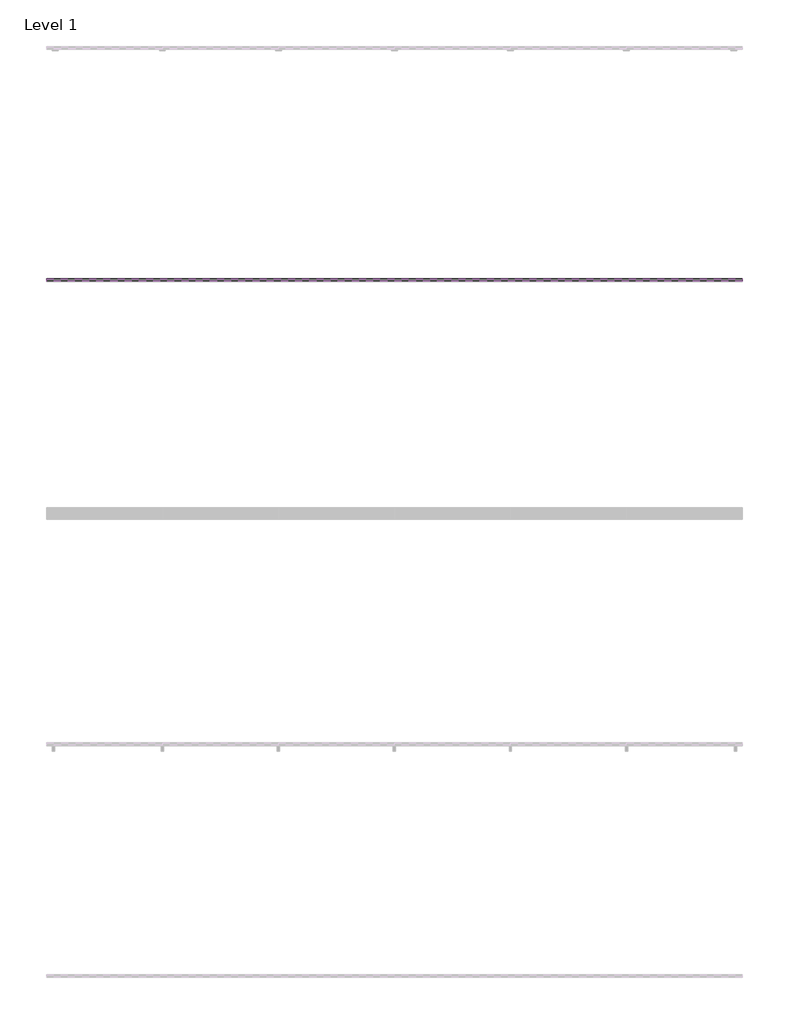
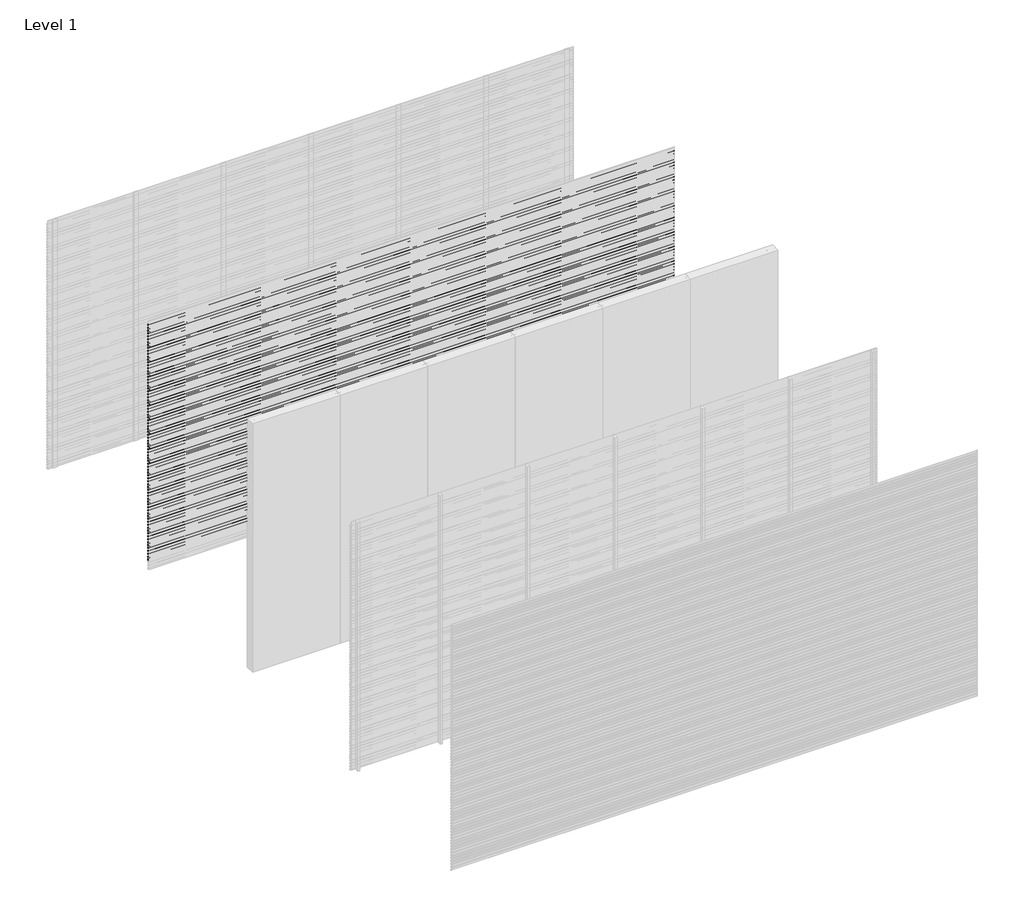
# One storey, part 20 of 25: 98 proxies.
"""IFC4 building model written with IfcOpenShell, lengths in millimetres."""

from ifc_helpers import new_model, si_unit, frame, origin, place, context, project, spatial, polyline, outline, extrude, element, save

model = new_model("IFC4")

# Units and contexts
model_context = context("Model", 3, world=origin())
ifc_project = project(units=[si_unit("LENGTHUNIT", "METRE", prefix="MILLI")], contexts=[model_context])

# Site, building, storey
site = spatial("IfcSite", under=ifc_project)
building = spatial("IfcBuilding", under=site)
storey = spatial("IfcBuildingStorey", under=building, Name="Level 1", Elevation=0.0)

# Proxies
placement = place(None, origin())
element("IfcBuildingElementProxy", 1, Name="Wall Sweeps", at=placement, inside=storey, context=model_context, shape_type="SweptSolid", body=[
    extrude(outline(polyline([(-1995.0, 2975.0), (-1995.0, 2963.942893), (-1976.0, 2948.0), (-1976.0, 2935.0), (-1997.0, 2952.6210923), (-1997.0, 2975.0), (-1995.0, 2975.0)])), frame((0.0, 0.0, 0.0), z_axis=(1.0, 0.0, 0.0), x_axis=(0.0, 1.0, 0.0)), (0.0, 0.0, 1.0), 6000.0),
])
element("IfcBuildingElementProxy", 2, Name="Wall Sweeps", at=placement, inside=storey, context=model_context, shape_type="SweptSolid", body=[
    extrude(outline(polyline([(-1995.0, 2940.0), (-1995.0, 2928.942893), (-1976.0, 2913.0), (-1976.0, 2900.0), (-1997.0, 2917.6210923), (-1997.0, 2940.0), (-1995.0, 2940.0)])), frame((0.0, 0.0, 0.0), z_axis=(1.0, 0.0, 0.0), x_axis=(0.0, 1.0, 0.0)), (0.0, 0.0, 1.0), 6000.0),
])
element("IfcBuildingElementProxy", 3, Name="Wall Sweeps", at=placement, inside=storey, context=model_context, shape_type="SweptSolid", body=[
    extrude(outline(polyline([(-1995.0, 2905.0), (-1995.0, 2893.942893), (-1976.0, 2878.0), (-1976.0, 2865.0), (-1997.0, 2882.6210923), (-1997.0, 2905.0), (-1995.0, 2905.0)])), frame((0.0, 0.0, 0.0), z_axis=(1.0, 0.0, 0.0), x_axis=(0.0, 1.0, 0.0)), (0.0, 0.0, 1.0), 6000.0),
])
element("IfcBuildingElementProxy", 4, Name="Wall Sweeps", at=placement, inside=storey, context=model_context, shape_type="SweptSolid", body=[
    extrude(outline(polyline([(-1995.0, 2870.0), (-1995.0, 2858.942893), (-1976.0, 2843.0), (-1976.0, 2830.0), (-1997.0, 2847.6210923), (-1997.0, 2870.0), (-1995.0, 2870.0)])), frame((0.0, 0.0, 0.0), z_axis=(1.0, 0.0, 0.0), x_axis=(0.0, 1.0, 0.0)), (0.0, 0.0, 1.0), 6000.0),
])
element("IfcBuildingElementProxy", 5, Name="Wall Sweeps", at=placement, inside=storey, context=model_context, shape_type="SweptSolid", body=[
    extrude(outline(polyline([(-1995.0, 2835.0), (-1995.0, 2823.942893), (-1976.0, 2808.0), (-1976.0, 2795.0), (-1997.0, 2812.6210923), (-1997.0, 2835.0), (-1995.0, 2835.0)])), frame((0.0, 0.0, 0.0), z_axis=(1.0, 0.0, 0.0), x_axis=(0.0, 1.0, 0.0)), (0.0, 0.0, 1.0), 6000.0),
])
element("IfcBuildingElementProxy", 6, Name="Wall Sweeps", at=placement, inside=storey, context=model_context, shape_type="SweptSolid", body=[
    extrude(outline(polyline([(-1995.0, 2800.0), (-1995.0, 2788.942893), (-1976.0, 2773.0), (-1976.0, 2760.0), (-1997.0, 2777.6210923), (-1997.0, 2800.0), (-1995.0, 2800.0)])), frame((0.0, 0.0, 0.0), z_axis=(1.0, 0.0, 0.0), x_axis=(0.0, 1.0, 0.0)), (0.0, 0.0, 1.0), 6000.0),
])
element("IfcBuildingElementProxy", 7, Name="Wall Sweeps", at=placement, inside=storey, context=model_context, shape_type="SweptSolid", body=[
    extrude(outline(polyline([(-1995.0, 2765.0), (-1995.0, 2753.942893), (-1976.0, 2738.0), (-1976.0, 2725.0), (-1997.0, 2742.6210923), (-1997.0, 2765.0), (-1995.0, 2765.0)])), frame((0.0, 0.0, 0.0), z_axis=(1.0, 0.0, 0.0), x_axis=(0.0, 1.0, 0.0)), (0.0, 0.0, 1.0), 6000.0),
])
element("IfcBuildingElementProxy", 8, Name="Wall Sweeps", at=placement, inside=storey, context=model_context, shape_type="SweptSolid", body=[
    extrude(outline(polyline([(-1995.0, 2730.0), (-1995.0, 2718.942893), (-1976.0, 2703.0), (-1976.0, 2690.0), (-1997.0, 2707.6210923), (-1997.0, 2730.0), (-1995.0, 2730.0)])), frame((0.0, 0.0, 0.0), z_axis=(1.0, 0.0, 0.0), x_axis=(0.0, 1.0, 0.0)), (0.0, 0.0, 1.0), 6000.0),
])
element("IfcBuildingElementProxy", 9, Name="Wall Sweeps", at=placement, inside=storey, context=model_context, shape_type="SweptSolid", body=[
    extrude(outline(polyline([(-1995.0, 2695.0), (-1995.0, 2683.942893), (-1976.0, 2668.0), (-1976.0, 2655.0), (-1997.0, 2672.6210923), (-1997.0, 2695.0), (-1995.0, 2695.0)])), frame((0.0, 0.0, 0.0), z_axis=(1.0, 0.0, 0.0), x_axis=(0.0, 1.0, 0.0)), (0.0, 0.0, 1.0), 6000.0),
])
element("IfcBuildingElementProxy", 10, Name="Wall Sweeps", at=placement, inside=storey, context=model_context, shape_type="SweptSolid", body=[
    extrude(outline(polyline([(-1995.0, 2660.0), (-1995.0, 2648.942893), (-1976.0, 2633.0), (-1976.0, 2620.0), (-1997.0, 2637.6210923), (-1997.0, 2660.0), (-1995.0, 2660.0)])), frame((0.0, 0.0, 0.0), z_axis=(1.0, 0.0, 0.0), x_axis=(0.0, 1.0, 0.0)), (0.0, 0.0, 1.0), 6000.0),
])
element("IfcBuildingElementProxy", 11, Name="Wall Sweeps", at=placement, inside=storey, context=model_context, shape_type="SweptSolid", body=[
    extrude(outline(polyline([(-1995.0, 2625.0), (-1995.0, 2613.942893), (-1976.0, 2598.0), (-1976.0, 2585.0), (-1997.0, 2602.6210923), (-1997.0, 2625.0), (-1995.0, 2625.0)])), frame((0.0, 0.0, 0.0), z_axis=(1.0, 0.0, 0.0), x_axis=(0.0, 1.0, 0.0)), (0.0, 0.0, 1.0), 6000.0),
])
element("IfcBuildingElementProxy", 12, Name="Wall Sweeps", at=placement, inside=storey, context=model_context, shape_type="SweptSolid", body=[
    extrude(outline(polyline([(-1995.0, 2590.0), (-1995.0, 2578.942893), (-1976.0, 2563.0), (-1976.0, 2550.0), (-1997.0, 2567.6210923), (-1997.0, 2590.0), (-1995.0, 2590.0)])), frame((0.0, 0.0, 0.0), z_axis=(1.0, 0.0, 0.0), x_axis=(0.0, 1.0, 0.0)), (0.0, 0.0, 1.0), 6000.0),
])
element("IfcBuildingElementProxy", 13, Name="Wall Sweeps", at=placement, inside=storey, context=model_context, shape_type="SweptSolid", body=[
    extrude(outline(polyline([(-1995.0, 2555.0), (-1995.0, 2543.942893), (-1976.0, 2528.0), (-1976.0, 2515.0), (-1997.0, 2532.6210923), (-1997.0, 2555.0), (-1995.0, 2555.0)])), frame((0.0, 0.0, 0.0), z_axis=(1.0, 0.0, 0.0), x_axis=(0.0, 1.0, 0.0)), (0.0, 0.0, 1.0), 6000.0),
])
element("IfcBuildingElementProxy", 14, Name="Wall Sweeps", at=placement, inside=storey, context=model_context, shape_type="SweptSolid", body=[
    extrude(outline(polyline([(-1995.0, 2520.0), (-1995.0, 2508.942893), (-1976.0, 2493.0), (-1976.0, 2480.0), (-1997.0, 2497.6210923), (-1997.0, 2520.0), (-1995.0, 2520.0)])), frame((0.0, 0.0, 0.0), z_axis=(1.0, 0.0, 0.0), x_axis=(0.0, 1.0, 0.0)), (0.0, 0.0, 1.0), 6000.0),
])
element("IfcBuildingElementProxy", 15, Name="Wall Sweeps", at=placement, inside=storey, context=model_context, shape_type="SweptSolid", body=[
    extrude(outline(polyline([(-1995.0, 2485.0), (-1995.0, 2473.942893), (-1976.0, 2458.0), (-1976.0, 2445.0), (-1997.0, 2462.6210923), (-1997.0, 2485.0), (-1995.0, 2485.0)])), frame((0.0, 0.0, 0.0), z_axis=(1.0, 0.0, 0.0), x_axis=(0.0, 1.0, 0.0)), (0.0, 0.0, 1.0), 6000.0),
])
element("IfcBuildingElementProxy", 16, Name="Wall Sweeps", at=placement, inside=storey, context=model_context, shape_type="SweptSolid", body=[
    extrude(outline(polyline([(-1995.0, 2450.0), (-1995.0, 2438.942893), (-1976.0, 2423.0), (-1976.0, 2410.0), (-1997.0, 2427.6210923), (-1997.0, 2450.0), (-1995.0, 2450.0)])), frame((0.0, 0.0, 0.0), z_axis=(1.0, 0.0, 0.0), x_axis=(0.0, 1.0, 0.0)), (0.0, 0.0, 1.0), 6000.0),
])
element("IfcBuildingElementProxy", 17, Name="Wall Sweeps", at=placement, inside=storey, context=model_context, shape_type="SweptSolid", body=[
    extrude(outline(polyline([(-1995.0, 2415.0), (-1995.0, 2403.942893), (-1976.0, 2388.0), (-1976.0, 2375.0), (-1997.0, 2392.6210923), (-1997.0, 2415.0), (-1995.0, 2415.0)])), frame((0.0, 0.0, 0.0), z_axis=(1.0, 0.0, 0.0), x_axis=(0.0, 1.0, 0.0)), (0.0, 0.0, 1.0), 6000.0),
])
element("IfcBuildingElementProxy", 18, Name="Wall Sweeps", at=placement, inside=storey, context=model_context, shape_type="SweptSolid", body=[
    extrude(outline(polyline([(-1995.0, 2380.0), (-1995.0, 2368.942893), (-1976.0, 2353.0), (-1976.0, 2340.0), (-1997.0, 2357.6210923), (-1997.0, 2380.0), (-1995.0, 2380.0)])), frame((0.0, 0.0, 0.0), z_axis=(1.0, 0.0, 0.0), x_axis=(0.0, 1.0, 0.0)), (0.0, 0.0, 1.0), 6000.0),
])
element("IfcBuildingElementProxy", 19, Name="Wall Sweeps", at=placement, inside=storey, context=model_context, shape_type="SweptSolid", body=[
    extrude(outline(polyline([(-1995.0, 2345.0), (-1995.0, 2333.942893), (-1976.0, 2318.0), (-1976.0, 2305.0), (-1997.0, 2322.6210923), (-1997.0, 2345.0), (-1995.0, 2345.0)])), frame((0.0, 0.0, 0.0), z_axis=(1.0, 0.0, 0.0), x_axis=(0.0, 1.0, 0.0)), (0.0, 0.0, 1.0), 6000.0),
])
element("IfcBuildingElementProxy", 20, Name="Wall Sweeps", at=placement, inside=storey, context=model_context, shape_type="SweptSolid", body=[
    extrude(outline(polyline([(-1995.0, 2310.0), (-1995.0, 2298.942893), (-1976.0, 2283.0), (-1976.0, 2270.0), (-1997.0, 2287.6210923), (-1997.0, 2310.0), (-1995.0, 2310.0)])), frame((0.0, 0.0, 0.0), z_axis=(1.0, 0.0, 0.0), x_axis=(0.0, 1.0, 0.0)), (0.0, 0.0, 1.0), 6000.0),
])
element("IfcBuildingElementProxy", 21, Name="Wall Sweeps", at=placement, inside=storey, context=model_context, shape_type="SweptSolid", body=[
    extrude(outline(polyline([(-1995.0, 2275.0), (-1995.0, 2263.942893), (-1976.0, 2248.0), (-1976.0, 2235.0), (-1997.0, 2252.6210923), (-1997.0, 2275.0), (-1995.0, 2275.0)])), frame((0.0, 0.0, 0.0), z_axis=(1.0, 0.0, 0.0), x_axis=(0.0, 1.0, 0.0)), (0.0, 0.0, 1.0), 6000.0),
])
element("IfcBuildingElementProxy", 22, Name="Wall Sweeps", at=placement, inside=storey, context=model_context, shape_type="SweptSolid", body=[
    extrude(outline(polyline([(-1995.0, 2240.0), (-1995.0, 2228.942893), (-1976.0, 2213.0), (-1976.0, 2200.0), (-1997.0, 2217.6210923), (-1997.0, 2240.0), (-1995.0, 2240.0)])), frame((0.0, 0.0, 0.0), z_axis=(1.0, 0.0, 0.0), x_axis=(0.0, 1.0, 0.0)), (0.0, 0.0, 1.0), 6000.0),
])
element("IfcBuildingElementProxy", 23, Name="Wall Sweeps", at=placement, inside=storey, context=model_context, shape_type="SweptSolid", body=[
    extrude(outline(polyline([(-1995.0, 2205.0), (-1995.0, 2193.942893), (-1976.0, 2178.0), (-1976.0, 2165.0), (-1997.0, 2182.6210923), (-1997.0, 2205.0), (-1995.0, 2205.0)])), frame((0.0, 0.0, 0.0), z_axis=(1.0, 0.0, 0.0), x_axis=(0.0, 1.0, 0.0)), (0.0, 0.0, 1.0), 6000.0),
])
element("IfcBuildingElementProxy", 24, Name="Wall Sweeps", at=placement, inside=storey, context=model_context, shape_type="SweptSolid", body=[
    extrude(outline(polyline([(-1995.0, 2170.0), (-1995.0, 2158.942893), (-1976.0, 2143.0), (-1976.0, 2130.0), (-1997.0, 2147.6210923), (-1997.0, 2170.0), (-1995.0, 2170.0)])), frame((0.0, 0.0, 0.0), z_axis=(1.0, 0.0, 0.0), x_axis=(0.0, 1.0, 0.0)), (0.0, 0.0, 1.0), 6000.0),
])
element("IfcBuildingElementProxy", 25, Name="Wall Sweeps", at=placement, inside=storey, context=model_context, shape_type="SweptSolid", body=[
    extrude(outline(polyline([(-1995.0, 2135.0), (-1995.0, 2123.942893), (-1976.0, 2108.0), (-1976.0, 2095.0), (-1997.0, 2112.6210923), (-1997.0, 2135.0), (-1995.0, 2135.0)])), frame((0.0, 0.0, 0.0), z_axis=(1.0, 0.0, 0.0), x_axis=(0.0, 1.0, 0.0)), (0.0, 0.0, 1.0), 6000.0),
])
element("IfcBuildingElementProxy", 26, Name="Wall Sweeps", at=placement, inside=storey, context=model_context, shape_type="SweptSolid", body=[
    extrude(outline(polyline([(-1995.0, 2100.0), (-1995.0, 2088.942893), (-1976.0, 2073.0), (-1976.0, 2060.0), (-1997.0, 2077.6210923), (-1997.0, 2100.0), (-1995.0, 2100.0)])), frame((0.0, 0.0, 0.0), z_axis=(1.0, 0.0, 0.0), x_axis=(0.0, 1.0, 0.0)), (0.0, 0.0, 1.0), 6000.0),
])
element("IfcBuildingElementProxy", 27, Name="Wall Sweeps", at=placement, inside=storey, context=model_context, shape_type="SweptSolid", body=[
    extrude(outline(polyline([(-1995.0, 2065.0), (-1995.0, 2053.942893), (-1976.0, 2038.0), (-1976.0, 2025.0), (-1997.0, 2042.6210923), (-1997.0, 2065.0), (-1995.0, 2065.0)])), frame((0.0, 0.0, 0.0), z_axis=(1.0, 0.0, 0.0), x_axis=(0.0, 1.0, 0.0)), (0.0, 0.0, 1.0), 6000.0),
])
element("IfcBuildingElementProxy", 28, Name="Wall Sweeps", at=placement, inside=storey, context=model_context, shape_type="SweptSolid", body=[
    extrude(outline(polyline([(-1995.0, 2030.0), (-1995.0, 2018.942893), (-1976.0, 2003.0), (-1976.0, 1990.0), (-1997.0, 2007.6210923), (-1997.0, 2030.0), (-1995.0, 2030.0)])), frame((0.0, 0.0, 0.0), z_axis=(1.0, 0.0, 0.0), x_axis=(0.0, 1.0, 0.0)), (0.0, 0.0, 1.0), 6000.0),
])
element("IfcBuildingElementProxy", 29, Name="Wall Sweeps", at=placement, inside=storey, context=model_context, shape_type="SweptSolid", body=[
    extrude(outline(polyline([(-1995.0, 1995.0), (-1995.0, 1983.942893), (-1976.0, 1968.0), (-1976.0, 1955.0), (-1997.0, 1972.6210923), (-1997.0, 1995.0), (-1995.0, 1995.0)])), frame((0.0, 0.0, 0.0), z_axis=(1.0, 0.0, 0.0), x_axis=(0.0, 1.0, 0.0)), (0.0, 0.0, 1.0), 6000.0),
])
element("IfcBuildingElementProxy", 30, Name="Wall Sweeps", at=placement, inside=storey, context=model_context, shape_type="SweptSolid", body=[
    extrude(outline(polyline([(-1995.0, 1960.0), (-1995.0, 1948.942893), (-1976.0, 1933.0), (-1976.0, 1920.0), (-1997.0, 1937.6210923), (-1997.0, 1960.0), (-1995.0, 1960.0)])), frame((0.0, 0.0, 0.0), z_axis=(1.0, 0.0, 0.0), x_axis=(0.0, 1.0, 0.0)), (0.0, 0.0, 1.0), 6000.0),
])
element("IfcBuildingElementProxy", 31, Name="Wall Sweeps", at=placement, inside=storey, context=model_context, shape_type="SweptSolid", body=[
    extrude(outline(polyline([(-1995.0, 1925.0), (-1995.0, 1913.942893), (-1976.0, 1898.0), (-1976.0, 1885.0), (-1997.0, 1902.6210923), (-1997.0, 1925.0), (-1995.0, 1925.0)])), frame((0.0, 0.0, 0.0), z_axis=(1.0, 0.0, 0.0), x_axis=(0.0, 1.0, 0.0)), (0.0, 0.0, 1.0), 6000.0),
])
element("IfcBuildingElementProxy", 32, Name="Wall Sweeps", at=placement, inside=storey, context=model_context, shape_type="SweptSolid", body=[
    extrude(outline(polyline([(-1995.0, 1890.0), (-1995.0, 1878.942893), (-1976.0, 1863.0), (-1976.0, 1850.0), (-1997.0, 1867.6210923), (-1997.0, 1890.0), (-1995.0, 1890.0)])), frame((0.0, 0.0, 0.0), z_axis=(1.0, 0.0, 0.0), x_axis=(0.0, 1.0, 0.0)), (0.0, 0.0, 1.0), 6000.0),
])
element("IfcBuildingElementProxy", 33, Name="Wall Sweeps", at=placement, inside=storey, context=model_context, shape_type="SweptSolid", body=[
    extrude(outline(polyline([(-1995.0, 1855.0), (-1995.0, 1843.942893), (-1976.0, 1828.0), (-1976.0, 1815.0), (-1997.0, 1832.6210923), (-1997.0, 1855.0), (-1995.0, 1855.0)])), frame((0.0, 0.0, 0.0), z_axis=(1.0, 0.0, 0.0), x_axis=(0.0, 1.0, 0.0)), (0.0, 0.0, 1.0), 6000.0),
])
element("IfcBuildingElementProxy", 34, Name="Wall Sweeps", at=placement, inside=storey, context=model_context, shape_type="SweptSolid", body=[
    extrude(outline(polyline([(-1995.0, 1820.0), (-1995.0, 1808.942893), (-1976.0, 1793.0), (-1976.0, 1780.0), (-1997.0, 1797.6210923), (-1997.0, 1820.0), (-1995.0, 1820.0)])), frame((0.0, 0.0, 0.0), z_axis=(1.0, 0.0, 0.0), x_axis=(0.0, 1.0, 0.0)), (0.0, 0.0, 1.0), 6000.0),
])
element("IfcBuildingElementProxy", 35, Name="Wall Sweeps", at=placement, inside=storey, context=model_context, shape_type="SweptSolid", body=[
    extrude(outline(polyline([(-1995.0, 1785.0), (-1995.0, 1773.942893), (-1976.0, 1758.0), (-1976.0, 1745.0), (-1997.0, 1762.6210923), (-1997.0, 1785.0), (-1995.0, 1785.0)])), frame((0.0, 0.0, 0.0), z_axis=(1.0, 0.0, 0.0), x_axis=(0.0, 1.0, 0.0)), (0.0, 0.0, 1.0), 6000.0),
])
element("IfcBuildingElementProxy", 36, Name="Wall Sweeps", at=placement, inside=storey, context=model_context, shape_type="SweptSolid", body=[
    extrude(outline(polyline([(-1995.0, 1750.0), (-1995.0, 1738.942893), (-1976.0, 1723.0), (-1976.0, 1710.0), (-1997.0, 1727.6210923), (-1997.0, 1750.0), (-1995.0, 1750.0)])), frame((0.0, 0.0, 0.0), z_axis=(1.0, 0.0, 0.0), x_axis=(0.0, 1.0, 0.0)), (0.0, 0.0, 1.0), 6000.0),
])
element("IfcBuildingElementProxy", 37, Name="Wall Sweeps", at=placement, inside=storey, context=model_context, shape_type="SweptSolid", body=[
    extrude(outline(polyline([(-1995.0, 1715.0), (-1995.0, 1703.942893), (-1976.0, 1688.0), (-1976.0, 1675.0), (-1997.0, 1692.6210923), (-1997.0, 1715.0), (-1995.0, 1715.0)])), frame((0.0, 0.0, 0.0), z_axis=(1.0, 0.0, 0.0), x_axis=(0.0, 1.0, 0.0)), (0.0, 0.0, 1.0), 6000.0),
])
element("IfcBuildingElementProxy", 38, Name="Wall Sweeps", at=placement, inside=storey, context=model_context, shape_type="SweptSolid", body=[
    extrude(outline(polyline([(-1995.0, 1680.0), (-1995.0, 1668.942893), (-1976.0, 1653.0), (-1976.0, 1640.0), (-1997.0, 1657.6210923), (-1997.0, 1680.0), (-1995.0, 1680.0)])), frame((0.0, 0.0, 0.0), z_axis=(1.0, 0.0, 0.0), x_axis=(0.0, 1.0, 0.0)), (0.0, 0.0, 1.0), 6000.0),
])
element("IfcBuildingElementProxy", 39, Name="Wall Sweeps", at=placement, inside=storey, context=model_context, shape_type="SweptSolid", body=[
    extrude(outline(polyline([(-1995.0, 1645.0), (-1995.0, 1633.942893), (-1976.0, 1618.0), (-1976.0, 1605.0), (-1997.0, 1622.6210923), (-1997.0, 1645.0), (-1995.0, 1645.0)])), frame((0.0, 0.0, 0.0), z_axis=(1.0, 0.0, 0.0), x_axis=(0.0, 1.0, 0.0)), (0.0, 0.0, 1.0), 6000.0),
])
element("IfcBuildingElementProxy", 40, Name="Wall Sweeps", at=placement, inside=storey, context=model_context, shape_type="SweptSolid", body=[
    extrude(outline(polyline([(-1995.0, 1610.0), (-1995.0, 1598.942893), (-1976.0, 1583.0), (-1976.0, 1570.0), (-1997.0, 1587.6210923), (-1997.0, 1610.0), (-1995.0, 1610.0)])), frame((0.0, 0.0, 0.0), z_axis=(1.0, 0.0, 0.0), x_axis=(0.0, 1.0, 0.0)), (0.0, 0.0, 1.0), 6000.0),
])
element("IfcBuildingElementProxy", 41, Name="Wall Sweeps", at=placement, inside=storey, context=model_context, shape_type="SweptSolid", body=[
    extrude(outline(polyline([(-1995.0, 1575.0), (-1995.0, 1563.942893), (-1976.0, 1548.0), (-1976.0, 1535.0), (-1997.0, 1552.6210923), (-1997.0, 1575.0), (-1995.0, 1575.0)])), frame((0.0, 0.0, 0.0), z_axis=(1.0, 0.0, 0.0), x_axis=(0.0, 1.0, 0.0)), (0.0, 0.0, 1.0), 6000.0),
])
element("IfcBuildingElementProxy", 42, Name="Wall Sweeps", at=placement, inside=storey, context=model_context, shape_type="SweptSolid", body=[
    extrude(outline(polyline([(-1995.0, 1540.0), (-1995.0, 1528.942893), (-1976.0, 1513.0), (-1976.0, 1500.0), (-1997.0, 1517.6210923), (-1997.0, 1540.0), (-1995.0, 1540.0)])), frame((0.0, 0.0, 0.0), z_axis=(1.0, 0.0, 0.0), x_axis=(0.0, 1.0, 0.0)), (0.0, 0.0, 1.0), 6000.0),
])
element("IfcBuildingElementProxy", 43, Name="Wall Sweeps", at=placement, inside=storey, context=model_context, shape_type="SweptSolid", body=[
    extrude(outline(polyline([(-1995.0, 1505.0), (-1995.0, 1493.942893), (-1976.0, 1478.0), (-1976.0, 1465.0), (-1997.0, 1482.6210923), (-1997.0, 1505.0), (-1995.0, 1505.0)])), frame((0.0, 0.0, 0.0), z_axis=(1.0, 0.0, 0.0), x_axis=(0.0, 1.0, 0.0)), (0.0, 0.0, 1.0), 6000.0),
])
element("IfcBuildingElementProxy", 44, Name="Wall Sweeps", at=placement, inside=storey, context=model_context, shape_type="SweptSolid", body=[
    extrude(outline(polyline([(-1995.0, 1470.0), (-1995.0, 1458.942893), (-1976.0, 1443.0), (-1976.0, 1430.0), (-1997.0, 1447.6210923), (-1997.0, 1470.0), (-1995.0, 1470.0)])), frame((0.0, 0.0, 0.0), z_axis=(1.0, 0.0, 0.0), x_axis=(0.0, 1.0, 0.0)), (0.0, 0.0, 1.0), 6000.0),
])
element("IfcBuildingElementProxy", 45, Name="Wall Sweeps", at=placement, inside=storey, context=model_context, shape_type="SweptSolid", body=[
    extrude(outline(polyline([(-1995.0, 1435.0), (-1995.0, 1423.942893), (-1976.0, 1408.0), (-1976.0, 1395.0), (-1997.0, 1412.6210923), (-1997.0, 1435.0), (-1995.0, 1435.0)])), frame((0.0, 0.0, 0.0), z_axis=(1.0, 0.0, 0.0), x_axis=(0.0, 1.0, 0.0)), (0.0, 0.0, 1.0), 6000.0),
])
element("IfcBuildingElementProxy", 46, Name="Wall Sweeps", at=placement, inside=storey, context=model_context, shape_type="SweptSolid", body=[
    extrude(outline(polyline([(-1995.0, 1400.0), (-1995.0, 1388.942893), (-1976.0, 1373.0), (-1976.0, 1360.0), (-1997.0, 1377.6210923), (-1997.0, 1400.0), (-1995.0, 1400.0)])), frame((0.0, 0.0, 0.0), z_axis=(1.0, 0.0, 0.0), x_axis=(0.0, 1.0, 0.0)), (0.0, 0.0, 1.0), 6000.0),
])
element("IfcBuildingElementProxy", 47, Name="Wall Sweeps", at=placement, inside=storey, context=model_context, shape_type="SweptSolid", body=[
    extrude(outline(polyline([(-1995.0, 1365.0), (-1995.0, 1353.942893), (-1976.0, 1338.0), (-1976.0, 1325.0), (-1997.0, 1342.6210923), (-1997.0, 1365.0), (-1995.0, 1365.0)])), frame((0.0, 0.0, 0.0), z_axis=(1.0, 0.0, 0.0), x_axis=(0.0, 1.0, 0.0)), (0.0, 0.0, 1.0), 6000.0),
])
element("IfcBuildingElementProxy", 48, Name="Wall Sweeps", at=placement, inside=storey, context=model_context, shape_type="SweptSolid", body=[
    extrude(outline(polyline([(-1995.0, 1330.0), (-1995.0, 1318.942893), (-1976.0, 1303.0), (-1976.0, 1290.0), (-1997.0, 1307.6210923), (-1997.0, 1330.0), (-1995.0, 1330.0)])), frame((0.0, 0.0, 0.0), z_axis=(1.0, 0.0, 0.0), x_axis=(0.0, 1.0, 0.0)), (0.0, 0.0, 1.0), 6000.0),
])
element("IfcBuildingElementProxy", 49, Name="Wall Sweeps", at=placement, inside=storey, context=model_context, shape_type="SweptSolid", body=[
    extrude(outline(polyline([(-1995.0, 1295.0), (-1995.0, 1283.942893), (-1976.0, 1268.0), (-1976.0, 1255.0), (-1997.0, 1272.6210923), (-1997.0, 1295.0), (-1995.0, 1295.0)])), frame((0.0, 0.0, 0.0), z_axis=(1.0, 0.0, 0.0), x_axis=(0.0, 1.0, 0.0)), (0.0, 0.0, 1.0), 6000.0),
])
element("IfcBuildingElementProxy", 50, Name="Wall Sweeps", at=placement, inside=storey, context=model_context, shape_type="SweptSolid", body=[
    extrude(outline(polyline([(-1995.0, 1260.0), (-1995.0, 1248.942893), (-1976.0, 1233.0), (-1976.0, 1220.0), (-1997.0, 1237.6210923), (-1997.0, 1260.0), (-1995.0, 1260.0)])), frame((0.0, 0.0, 0.0), z_axis=(1.0, 0.0, 0.0), x_axis=(0.0, 1.0, 0.0)), (0.0, 0.0, 1.0), 6000.0),
])
element("IfcBuildingElementProxy", 51, Name="Wall Sweeps", at=placement, inside=storey, context=model_context, shape_type="SweptSolid", body=[
    extrude(outline(polyline([(-1995.0, 1225.0), (-1995.0, 1213.942893), (-1976.0, 1198.0), (-1976.0, 1185.0), (-1997.0, 1202.6210923), (-1997.0, 1225.0), (-1995.0, 1225.0)])), frame((0.0, 0.0, 0.0), z_axis=(1.0, 0.0, 0.0), x_axis=(0.0, 1.0, 0.0)), (0.0, 0.0, 1.0), 6000.0),
])
element("IfcBuildingElementProxy", 52, Name="Wall Sweeps", at=placement, inside=storey, context=model_context, shape_type="SweptSolid", body=[
    extrude(outline(polyline([(-1995.0, 1190.0), (-1995.0, 1178.942893), (-1976.0, 1163.0), (-1976.0, 1150.0), (-1997.0, 1167.6210923), (-1997.0, 1190.0), (-1995.0, 1190.0)])), frame((0.0, 0.0, 0.0), z_axis=(1.0, 0.0, 0.0), x_axis=(0.0, 1.0, 0.0)), (0.0, 0.0, 1.0), 6000.0),
])
element("IfcBuildingElementProxy", 53, Name="Wall Sweeps", at=placement, inside=storey, context=model_context, shape_type="SweptSolid", body=[
    extrude(outline(polyline([(-1995.0, 1155.0), (-1995.0, 1143.942893), (-1976.0, 1128.0), (-1976.0, 1115.0), (-1997.0, 1132.6210923), (-1997.0, 1155.0), (-1995.0, 1155.0)])), frame((0.0, 0.0, 0.0), z_axis=(1.0, 0.0, 0.0), x_axis=(0.0, 1.0, 0.0)), (0.0, 0.0, 1.0), 6000.0),
])
element("IfcBuildingElementProxy", 54, Name="Wall Sweeps", at=placement, inside=storey, context=model_context, shape_type="SweptSolid", body=[
    extrude(outline(polyline([(-1995.0, 1120.0), (-1995.0, 1108.942893), (-1976.0, 1093.0), (-1976.0, 1080.0), (-1997.0, 1097.6210923), (-1997.0, 1120.0), (-1995.0, 1120.0)])), frame((0.0, 0.0, 0.0), z_axis=(1.0, 0.0, 0.0), x_axis=(0.0, 1.0, 0.0)), (0.0, 0.0, 1.0), 6000.0),
])
element("IfcBuildingElementProxy", 55, Name="Wall Sweeps", at=placement, inside=storey, context=model_context, shape_type="SweptSolid", body=[
    extrude(outline(polyline([(-1995.0, 1085.0), (-1995.0, 1073.942893), (-1976.0, 1058.0), (-1976.0, 1045.0), (-1997.0, 1062.6210923), (-1997.0, 1085.0), (-1995.0, 1085.0)])), frame((0.0, 0.0, 0.0), z_axis=(1.0, 0.0, 0.0), x_axis=(0.0, 1.0, 0.0)), (0.0, 0.0, 1.0), 6000.0),
])
element("IfcBuildingElementProxy", 56, Name="Wall Sweeps", at=placement, inside=storey, context=model_context, shape_type="SweptSolid", body=[
    extrude(outline(polyline([(-1995.0, 1050.0), (-1995.0, 1038.942893), (-1976.0, 1023.0), (-1976.0, 1010.0), (-1997.0, 1027.6210923), (-1997.0, 1050.0), (-1995.0, 1050.0)])), frame((0.0, 0.0, 0.0), z_axis=(1.0, 0.0, 0.0), x_axis=(0.0, 1.0, 0.0)), (0.0, 0.0, 1.0), 6000.0),
])
element("IfcBuildingElementProxy", 57, Name="Wall Sweeps", at=placement, inside=storey, context=model_context, shape_type="SweptSolid", body=[
    extrude(outline(polyline([(-1995.0, 1015.0), (-1995.0, 1003.942893), (-1976.0, 988.0), (-1976.0, 975.0), (-1997.0, 992.6210923), (-1997.0, 1015.0), (-1995.0, 1015.0)])), frame((0.0, 0.0, 0.0), z_axis=(1.0, 0.0, 0.0), x_axis=(0.0, 1.0, 0.0)), (0.0, 0.0, 1.0), 6000.0),
])
element("IfcBuildingElementProxy", 58, Name="Wall Sweeps", at=placement, inside=storey, context=model_context, shape_type="SweptSolid", body=[
    extrude(outline(polyline([(-1995.0, 980.0), (-1995.0, 968.942893), (-1976.0, 953.0), (-1976.0, 940.0), (-1997.0, 957.6210923), (-1997.0, 980.0), (-1995.0, 980.0)])), frame((0.0, 0.0, 0.0), z_axis=(1.0, 0.0, 0.0), x_axis=(0.0, 1.0, 0.0)), (0.0, 0.0, 1.0), 6000.0),
])
element("IfcBuildingElementProxy", 59, Name="Wall Sweeps", at=placement, inside=storey, context=model_context, shape_type="SweptSolid", body=[
    extrude(outline(polyline([(-1995.0, 945.0), (-1995.0, 933.942893), (-1976.0, 918.0), (-1976.0, 905.0), (-1997.0, 922.6210923), (-1997.0, 945.0), (-1995.0, 945.0)])), frame((0.0, 0.0, 0.0), z_axis=(1.0, 0.0, 0.0), x_axis=(0.0, 1.0, 0.0)), (0.0, 0.0, 1.0), 6000.0),
])
element("IfcBuildingElementProxy", 60, Name="Wall Sweeps", at=placement, inside=storey, context=model_context, shape_type="SweptSolid", body=[
    extrude(outline(polyline([(-1995.0, 910.0), (-1995.0, 898.942893), (-1976.0, 883.0), (-1976.0, 870.0), (-1997.0, 887.6210923), (-1997.0, 910.0), (-1995.0, 910.0)])), frame((0.0, 0.0, 0.0), z_axis=(1.0, 0.0, 0.0), x_axis=(0.0, 1.0, 0.0)), (0.0, 0.0, 1.0), 6000.0),
])
element("IfcBuildingElementProxy", 61, Name="Wall Sweeps", at=placement, inside=storey, context=model_context, shape_type="SweptSolid", body=[
    extrude(outline(polyline([(-1995.0, 875.0), (-1995.0, 863.942893), (-1976.0, 848.0), (-1976.0, 835.0), (-1997.0, 852.6210923), (-1997.0, 875.0), (-1995.0, 875.0)])), frame((0.0, 0.0, 0.0), z_axis=(1.0, 0.0, 0.0), x_axis=(0.0, 1.0, 0.0)), (0.0, 0.0, 1.0), 6000.0),
])
element("IfcBuildingElementProxy", 62, Name="Wall Sweeps", at=placement, inside=storey, context=model_context, shape_type="SweptSolid", body=[
    extrude(outline(polyline([(-1995.0, 840.0), (-1995.0, 828.942893), (-1976.0, 813.0), (-1976.0, 800.0), (-1997.0, 817.6210923), (-1997.0, 840.0), (-1995.0, 840.0)])), frame((0.0, 0.0, 0.0), z_axis=(1.0, 0.0, 0.0), x_axis=(0.0, 1.0, 0.0)), (0.0, 0.0, 1.0), 6000.0),
])
element("IfcBuildingElementProxy", 63, Name="Wall Sweeps", at=placement, inside=storey, context=model_context, shape_type="SweptSolid", body=[
    extrude(outline(polyline([(-1995.0, 805.0), (-1995.0, 793.942893), (-1976.0, 778.0), (-1976.0, 765.0), (-1997.0, 782.6210923), (-1997.0, 805.0), (-1995.0, 805.0)])), frame((0.0, 0.0, 0.0), z_axis=(1.0, 0.0, 0.0), x_axis=(0.0, 1.0, 0.0)), (0.0, 0.0, 1.0), 6000.0),
])
element("IfcBuildingElementProxy", 64, Name="Wall Sweeps", at=placement, inside=storey, context=model_context, shape_type="SweptSolid", body=[
    extrude(outline(polyline([(-1995.0, 770.0), (-1995.0, 758.942893), (-1976.0, 743.0), (-1976.0, 730.0), (-1997.0, 747.6210923), (-1997.0, 770.0), (-1995.0, 770.0)])), frame((0.0, 0.0, 0.0), z_axis=(1.0, 0.0, 0.0), x_axis=(0.0, 1.0, 0.0)), (0.0, 0.0, 1.0), 6000.0),
])
element("IfcBuildingElementProxy", 65, Name="Wall Sweeps", at=placement, inside=storey, context=model_context, shape_type="SweptSolid", body=[
    extrude(outline(polyline([(-1995.0, 735.0), (-1995.0, 723.942893), (-1976.0, 708.0), (-1976.0, 695.0), (-1997.0, 712.6210923), (-1997.0, 735.0), (-1995.0, 735.0)])), frame((0.0, 0.0, 0.0), z_axis=(1.0, 0.0, 0.0), x_axis=(0.0, 1.0, 0.0)), (0.0, 0.0, 1.0), 6000.0),
])
element("IfcBuildingElementProxy", 66, Name="Wall Sweeps", at=placement, inside=storey, context=model_context, shape_type="SweptSolid", body=[
    extrude(outline(polyline([(-1995.0, 700.0), (-1995.0, 688.942893), (-1976.0, 673.0), (-1976.0, 660.0), (-1997.0, 677.6210923), (-1997.0, 700.0), (-1995.0, 700.0)])), frame((0.0, 0.0, 0.0), z_axis=(1.0, 0.0, 0.0), x_axis=(0.0, 1.0, 0.0)), (0.0, 0.0, 1.0), 6000.0),
])
element("IfcBuildingElementProxy", 67, Name="Wall Sweeps", at=placement, inside=storey, context=model_context, shape_type="SweptSolid", body=[
    extrude(outline(polyline([(-1995.0, 665.0), (-1995.0, 653.942893), (-1976.0, 638.0), (-1976.0, 625.0), (-1997.0, 642.6210923), (-1997.0, 665.0), (-1995.0, 665.0)])), frame((0.0, 0.0, 0.0), z_axis=(1.0, 0.0, 0.0), x_axis=(0.0, 1.0, 0.0)), (0.0, 0.0, 1.0), 6000.0),
])
element("IfcBuildingElementProxy", 68, Name="Wall Sweeps", at=placement, inside=storey, context=model_context, shape_type="SweptSolid", body=[
    extrude(outline(polyline([(-1995.0, 630.0), (-1995.0, 618.942893), (-1976.0, 603.0), (-1976.0, 590.0), (-1997.0, 607.6210923), (-1997.0, 630.0), (-1995.0, 630.0)])), frame((0.0, 0.0, 0.0), z_axis=(1.0, 0.0, 0.0), x_axis=(0.0, 1.0, 0.0)), (0.0, 0.0, 1.0), 6000.0),
])
element("IfcBuildingElementProxy", 69, Name="Wall Sweeps", at=placement, inside=storey, context=model_context, shape_type="SweptSolid", body=[
    extrude(outline(polyline([(-1995.0, 595.0), (-1995.0, 583.942893), (-1976.0, 568.0), (-1976.0, 555.0), (-1997.0, 572.6210923), (-1997.0, 595.0), (-1995.0, 595.0)])), frame((0.0, 0.0, 0.0), z_axis=(1.0, 0.0, 0.0), x_axis=(0.0, 1.0, 0.0)), (0.0, 0.0, 1.0), 6000.0),
])
element("IfcBuildingElementProxy", 70, Name="Wall Sweeps", at=placement, inside=storey, context=model_context, shape_type="SweptSolid", body=[
    extrude(outline(polyline([(-1995.0, 560.0), (-1995.0, 548.942893), (-1976.0, 533.0), (-1976.0, 520.0), (-1997.0, 537.6210923), (-1997.0, 560.0), (-1995.0, 560.0)])), frame((0.0, 0.0, 0.0), z_axis=(1.0, 0.0, 0.0), x_axis=(0.0, 1.0, 0.0)), (0.0, 0.0, 1.0), 6000.0),
])
element("IfcBuildingElementProxy", 71, Name="Wall Sweeps", at=placement, inside=storey, context=model_context, shape_type="SweptSolid", body=[
    extrude(outline(polyline([(-1995.0, 525.0), (-1995.0, 513.942893), (-1976.0, 498.0), (-1976.0, 485.0), (-1997.0, 502.6210923), (-1997.0, 525.0), (-1995.0, 525.0)])), frame((0.0, 0.0, 0.0), z_axis=(1.0, 0.0, 0.0), x_axis=(0.0, 1.0, 0.0)), (0.0, 0.0, 1.0), 6000.0),
])
element("IfcBuildingElementProxy", 72, Name="Wall Sweeps", at=placement, inside=storey, context=model_context, shape_type="SweptSolid", body=[
    extrude(outline(polyline([(-1995.0, 490.0), (-1995.0, 478.942893), (-1976.0, 463.0), (-1976.0, 450.0), (-1997.0, 467.6210923), (-1997.0, 490.0), (-1995.0, 490.0)])), frame((0.0, 0.0, 0.0), z_axis=(1.0, 0.0, 0.0), x_axis=(0.0, 1.0, 0.0)), (0.0, 0.0, 1.0), 6000.0),
])
element("IfcBuildingElementProxy", 73, Name="Wall Sweeps", at=placement, inside=storey, context=model_context, shape_type="SweptSolid", body=[
    extrude(outline(polyline([(-1995.0, 455.0), (-1995.0, 443.942893), (-1976.0, 428.0), (-1976.0, 415.0), (-1997.0, 432.6210923), (-1997.0, 455.0), (-1995.0, 455.0)])), frame((0.0, 0.0, 0.0), z_axis=(1.0, 0.0, 0.0), x_axis=(0.0, 1.0, 0.0)), (0.0, 0.0, 1.0), 6000.0),
])
element("IfcBuildingElementProxy", 74, Name="Wall Sweeps", at=placement, inside=storey, context=model_context, shape_type="SweptSolid", body=[
    extrude(outline(polyline([(-1995.0, 420.0), (-1995.0, 408.942893), (-1976.0, 393.0), (-1976.0, 380.0), (-1997.0, 397.6210923), (-1997.0, 420.0), (-1995.0, 420.0)])), frame((0.0, 0.0, 0.0), z_axis=(1.0, 0.0, 0.0), x_axis=(0.0, 1.0, 0.0)), (0.0, 0.0, 1.0), 6000.0),
])
element("IfcBuildingElementProxy", 75, Name="Wall Sweeps", at=placement, inside=storey, context=model_context, shape_type="SweptSolid", body=[
    extrude(outline(polyline([(-1995.0, 385.0), (-1995.0, 373.942893), (-1976.0, 358.0), (-1976.0, 345.0), (-1997.0, 362.6210923), (-1997.0, 385.0), (-1995.0, 385.0)])), frame((0.0, 0.0, 0.0), z_axis=(1.0, 0.0, 0.0), x_axis=(0.0, 1.0, 0.0)), (0.0, 0.0, 1.0), 6000.0),
])
element("IfcBuildingElementProxy", 76, Name="Wall Sweeps", at=placement, inside=storey, context=model_context, shape_type="SweptSolid", body=[
    extrude(outline(polyline([(-1995.0, 350.0), (-1995.0, 338.942893), (-1976.0, 323.0), (-1976.0, 310.0), (-1997.0, 327.6210923), (-1997.0, 350.0), (-1995.0, 350.0)])), frame((0.0, 0.0, 0.0), z_axis=(1.0, 0.0, 0.0), x_axis=(0.0, 1.0, 0.0)), (0.0, 0.0, 1.0), 6000.0),
])
element("IfcBuildingElementProxy", 77, Name="Wall Sweeps", at=placement, inside=storey, context=model_context, shape_type="SweptSolid", body=[
    extrude(outline(polyline([(-1995.0, 315.0), (-1995.0, 303.942893), (-1976.0, 288.0), (-1976.0, 275.0), (-1997.0, 292.6210923), (-1997.0, 315.0), (-1995.0, 315.0)])), frame((0.0, 0.0, 0.0), z_axis=(1.0, 0.0, 0.0), x_axis=(0.0, 1.0, 0.0)), (0.0, 0.0, 1.0), 6000.0),
])
element("IfcBuildingElementProxy", 78, Name="Wall Sweeps", at=placement, inside=storey, context=model_context, shape_type="SweptSolid", body=[
    extrude(outline(polyline([(-1995.0, 280.0), (-1995.0, 268.942893), (-1976.0, 253.0), (-1976.0, 240.0), (-1997.0, 257.6210923), (-1997.0, 280.0), (-1995.0, 280.0)])), frame((0.0, 0.0, 0.0), z_axis=(1.0, 0.0, 0.0), x_axis=(0.0, 1.0, 0.0)), (0.0, 0.0, 1.0), 6000.0),
])
element("IfcBuildingElementProxy", 79, Name="Wall Sweeps", at=placement, inside=storey, context=model_context, shape_type="SweptSolid", body=[
    extrude(outline(polyline([(-1995.0, 245.0), (-1995.0, 233.942893), (-1976.0, 218.0), (-1976.0, 205.0), (-1997.0, 222.6210923), (-1997.0, 245.0), (-1995.0, 245.0)])), frame((0.0, 0.0, 0.0), z_axis=(1.0, 0.0, 0.0), x_axis=(0.0, 1.0, 0.0)), (0.0, 0.0, 1.0), 6000.0),
])
element("IfcBuildingElementProxy", 80, Name="Wall Sweeps", at=placement, inside=storey, context=model_context, shape_type="SweptSolid", body=[
    extrude(outline(polyline([(-1995.0, 210.0), (-1995.0, 198.942893), (-1976.0, 183.0), (-1976.0, 170.0), (-1997.0, 187.6210923), (-1997.0, 210.0), (-1995.0, 210.0)])), frame((0.0, 0.0, 0.0), z_axis=(1.0, 0.0, 0.0), x_axis=(0.0, 1.0, 0.0)), (0.0, 0.0, 1.0), 6000.0),
])
element("IfcBuildingElementProxy", 81, Name="Wall Sweeps", at=placement, inside=storey, context=model_context, shape_type="SweptSolid", body=[
    extrude(outline(polyline([(-1995.0, 175.0), (-1995.0, 163.942893), (-1976.0, 148.0), (-1976.0, 135.0), (-1997.0, 152.6210923), (-1997.0, 175.0), (-1995.0, 175.0)])), frame((0.0, 0.0, 0.0), z_axis=(1.0, 0.0, 0.0), x_axis=(0.0, 1.0, 0.0)), (0.0, 0.0, 1.0), 6000.0),
])
element("IfcBuildingElementProxy", 82, Name="Wall Sweeps", at=placement, inside=storey, context=model_context, shape_type="SweptSolid", body=[
    extrude(outline(polyline([(-1995.0, 140.0), (-1995.0, 128.942893), (-1976.0, 113.0), (-1976.0, 100.0), (-1997.0, 117.6210923), (-1997.0, 140.0), (-1995.0, 140.0)])), frame((0.0, 0.0, 0.0), z_axis=(1.0, 0.0, 0.0), x_axis=(0.0, 1.0, 0.0)), (0.0, 0.0, 1.0), 6000.0),
])
element("IfcBuildingElementProxy", 83, Name="Wall Sweeps", at=placement, inside=storey, context=model_context, shape_type="SweptSolid", body=[
    extrude(outline(polyline([(-5995.0, 560.0), (-5995.0, 548.942893), (-5976.0, 533.0), (-5976.0, 520.0), (-5997.0, 537.6210923), (-5997.0, 560.0), (-5995.0, 560.0)])), frame((5000.0, 0.0, 0.0), z_axis=(1.0, 0.0, 0.0), x_axis=(0.0, 1.0, 0.0)), (0.0, 0.0, 1.0), 1000.0),
])
element("IfcBuildingElementProxy", 84, Name="Wall Sweeps", at=placement, inside=storey, context=model_context, shape_type="SweptSolid", body=[
    extrude(outline(polyline([(-5995.0, 525.0), (-5995.0, 513.942893), (-5976.0, 498.0), (-5976.0, 485.0), (-5997.0, 502.6210923), (-5997.0, 525.0), (-5995.0, 525.0)])), frame((5000.0, 0.0, 0.0), z_axis=(1.0, 0.0, 0.0), x_axis=(0.0, 1.0, 0.0)), (0.0, 0.0, 1.0), 1000.0),
])
element("IfcBuildingElementProxy", 85, Name="Wall Sweeps", at=placement, inside=storey, context=model_context, shape_type="SweptSolid", body=[
    extrude(outline(polyline([(-5995.0, 490.0), (-5995.0, 478.942893), (-5976.0, 463.0), (-5976.0, 450.0), (-5997.0, 467.6210923), (-5997.0, 490.0), (-5995.0, 490.0)])), frame((5000.0, 0.0, 0.0), z_axis=(1.0, 0.0, 0.0), x_axis=(0.0, 1.0, 0.0)), (0.0, 0.0, 1.0), 1000.0),
])
element("IfcBuildingElementProxy", 86, Name="Wall Sweeps", at=placement, inside=storey, context=model_context, shape_type="SweptSolid", body=[
    extrude(outline(polyline([(-5995.0, 455.0), (-5995.0, 443.942893), (-5976.0, 428.0), (-5976.0, 415.0), (-5997.0, 432.6210923), (-5997.0, 455.0), (-5995.0, 455.0)])), frame((5000.0, 0.0, 0.0), z_axis=(1.0, 0.0, 0.0), x_axis=(0.0, 1.0, 0.0)), (0.0, 0.0, 1.0), 1000.0),
])
element("IfcBuildingElementProxy", 87, Name="Wall Sweeps", at=placement, inside=storey, context=model_context, shape_type="SweptSolid", body=[
    extrude(outline(polyline([(-5995.0, 420.0), (-5995.0, 408.942893), (-5976.0, 393.0), (-5976.0, 380.0), (-5997.0, 397.6210923), (-5997.0, 420.0), (-5995.0, 420.0)])), frame((5000.0, 0.0, 0.0), z_axis=(1.0, 0.0, 0.0), x_axis=(0.0, 1.0, 0.0)), (0.0, 0.0, 1.0), 1000.0),
])
element("IfcBuildingElementProxy", 88, Name="Wall Sweeps", at=placement, inside=storey, context=model_context, shape_type="SweptSolid", body=[
    extrude(outline(polyline([(-5995.0, 385.0), (-5995.0, 373.942893), (-5976.0, 358.0), (-5976.0, 345.0), (-5997.0, 362.6210923), (-5997.0, 385.0), (-5995.0, 385.0)])), frame((5000.0, 0.0, 0.0), z_axis=(1.0, 0.0, 0.0), x_axis=(0.0, 1.0, 0.0)), (0.0, 0.0, 1.0), 1000.0),
])
element("IfcBuildingElementProxy", 89, Name="Wall Sweeps", at=placement, inside=storey, context=model_context, shape_type="SweptSolid", body=[
    extrude(outline(polyline([(-5995.0, 350.0), (-5995.0, 338.942893), (-5976.0, 323.0), (-5976.0, 310.0), (-5997.0, 327.6210923), (-5997.0, 350.0), (-5995.0, 350.0)])), frame((5000.0, 0.0, 0.0), z_axis=(1.0, 0.0, 0.0), x_axis=(0.0, 1.0, 0.0)), (0.0, 0.0, 1.0), 1000.0),
])
element("IfcBuildingElementProxy", 90, Name="Wall Sweeps", at=placement, inside=storey, context=model_context, shape_type="SweptSolid", body=[
    extrude(outline(polyline([(-5995.0, 315.0), (-5995.0, 303.942893), (-5976.0, 288.0), (-5976.0, 275.0), (-5997.0, 292.6210923), (-5997.0, 315.0), (-5995.0, 315.0)])), frame((5000.0, 0.0, 0.0), z_axis=(1.0, 0.0, 0.0), x_axis=(0.0, 1.0, 0.0)), (0.0, 0.0, 1.0), 1000.0),
])
element("IfcBuildingElementProxy", 91, Name="Wall Sweeps", at=placement, inside=storey, context=model_context, shape_type="SweptSolid", body=[
    extrude(outline(polyline([(-5995.0, 280.0), (-5995.0, 268.942893), (-5976.0, 253.0), (-5976.0, 240.0), (-5997.0, 257.6210923), (-5997.0, 280.0), (-5995.0, 280.0)])), frame((5000.0, 0.0, 0.0), z_axis=(1.0, 0.0, 0.0), x_axis=(0.0, 1.0, 0.0)), (0.0, 0.0, 1.0), 1000.0),
])
element("IfcBuildingElementProxy", 92, Name="Wall Sweeps", at=placement, inside=storey, context=model_context, shape_type="SweptSolid", body=[
    extrude(outline(polyline([(-5995.0, 245.0), (-5995.0, 233.942893), (-5976.0, 218.0), (-5976.0, 205.0), (-5997.0, 222.6210923), (-5997.0, 245.0), (-5995.0, 245.0)])), frame((5000.0, 0.0, 0.0), z_axis=(1.0, 0.0, 0.0), x_axis=(0.0, 1.0, 0.0)), (0.0, 0.0, 1.0), 1000.0),
])
element("IfcBuildingElementProxy", 93, Name="Wall Sweeps", at=placement, inside=storey, context=model_context, shape_type="SweptSolid", body=[
    extrude(outline(polyline([(-5995.0, 210.0), (-5995.0, 198.942893), (-5976.0, 183.0), (-5976.0, 170.0), (-5997.0, 187.6210923), (-5997.0, 210.0), (-5995.0, 210.0)])), frame((5000.0, 0.0, 0.0), z_axis=(1.0, 0.0, 0.0), x_axis=(0.0, 1.0, 0.0)), (0.0, 0.0, 1.0), 1000.0),
])
element("IfcBuildingElementProxy", 94, Name="Wall Sweeps", at=placement, inside=storey, context=model_context, shape_type="SweptSolid", body=[
    extrude(outline(polyline([(-5995.0, 175.0), (-5995.0, 163.942893), (-5976.0, 148.0), (-5976.0, 135.0), (-5997.0, 152.6210923), (-5997.0, 175.0), (-5995.0, 175.0)])), frame((5000.0, 0.0, 0.0), z_axis=(1.0, 0.0, 0.0), x_axis=(0.0, 1.0, 0.0)), (0.0, 0.0, 1.0), 1000.0),
])
element("IfcBuildingElementProxy", 95, Name="Wall Sweeps", at=placement, inside=storey, context=model_context, shape_type="SweptSolid", body=[
    extrude(outline(polyline([(-5995.0, 140.0), (-5995.0, 128.942893), (-5976.0, 113.0), (-5976.0, 100.0), (-5997.0, 117.6210923), (-5997.0, 140.0), (-5995.0, 140.0)])), frame((5000.0, 0.0, 0.0), z_axis=(1.0, 0.0, 0.0), x_axis=(0.0, 1.0, 0.0)), (0.0, 0.0, 1.0), 1000.0),
])
element("IfcBuildingElementProxy", 96, Name="Wall Sweeps", at=placement, inside=storey, context=model_context, shape_type="SweptSolid", body=[
    extrude(outline(polyline([(-5995.0, 105.0), (-5995.0, 93.942893), (-5976.0, 78.0), (-5976.0, 65.0), (-5997.0, 82.6210923), (-5997.0, 105.0), (-5995.0, 105.0)])), frame((5000.0, 0.0, 0.0), z_axis=(1.0, 0.0, 0.0), x_axis=(0.0, 1.0, 0.0)), (0.0, 0.0, 1.0), 1000.0),
])
element("IfcBuildingElementProxy", 97, Name="Wall Sweeps", at=placement, inside=storey, context=model_context, shape_type="SweptSolid", body=[
    extrude(outline(polyline([(-5995.0, 70.0), (-5995.0, 58.942893), (-5976.0, 43.0), (-5976.0, 30.0), (-5997.0, 47.6210923), (-5997.0, 70.0), (-5995.0, 70.0)])), frame((5000.0, 0.0, 0.0), z_axis=(1.0, 0.0, 0.0), x_axis=(0.0, 1.0, 0.0)), (0.0, 0.0, 1.0), 1000.0),
])
element("IfcBuildingElementProxy", 98, Name="Wall Sweeps", at=placement, inside=storey, context=model_context, shape_type="SweptSolid", body=[
    extrude(outline(polyline([(-5995.0, 35.0), (-5995.0, 23.942893), (-5976.0, 8.0), (-5976.0, -5.0), (-5997.0, 12.6210923), (-5997.0, 35.0), (-5995.0, 35.0)])), frame((5000.0, 0.0, 0.0), z_axis=(1.0, 0.0, 0.0), x_axis=(0.0, 1.0, 0.0)), (0.0, 0.0, 1.0), 1000.0),
])

save(model, "model.ifc")
